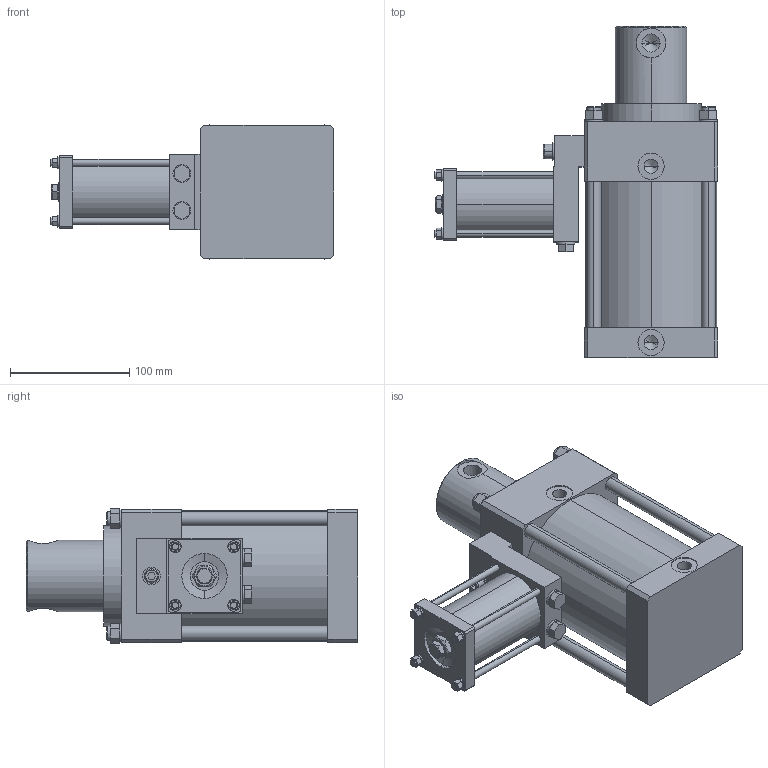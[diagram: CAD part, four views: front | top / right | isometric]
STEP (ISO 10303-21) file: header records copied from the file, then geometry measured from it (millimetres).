
FILE_DESCRIPTION (( 'STEP AP203' ), '1' );
FILE_NAME ('6210 100.STEP', '2016-01-29T11:08:38', ( '' ), ( '' ), 'SwSTEP 2.0', 'SolidWorks 2015', '' );
FILE_SCHEMA (( 'CONFIG_CONTROL_DESIGN' ));
Length unit declared in the file: millimetre
Products named in the file (1): 6210 100
Bounding box: 238 x 278 x 112.74 mm (x, y, z)
Volume: 1569270.8 mm3; surface area: 264999 mm2
Topology: 1 solids, 3 shells, 362 faces, 848 edges, 524 vertices
Faces by surface type: plane 224, cylinder 96, cone 40, torus 2
Entity records: 10705 total; most frequent: CARTESIAN_POINT 2211, DIRECTION 1814, ORIENTED_EDGE 1672, EDGE_CURVE 836, AXIS2_PLACEMENT_3D 655, VERTEX_POINT 524, LINE 504, VECTOR 504
